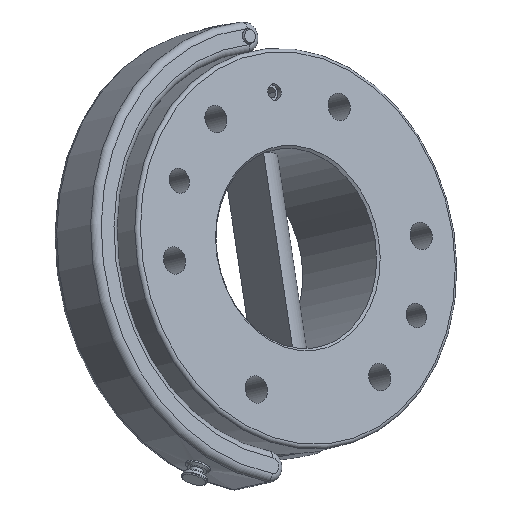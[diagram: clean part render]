
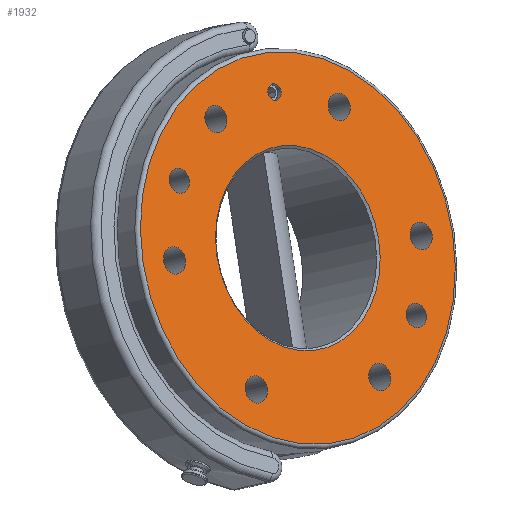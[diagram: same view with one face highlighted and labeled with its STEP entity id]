
A CAD part, top view. The second image highlights one B-rep face of the part: STEP entity #1932.
In plain terms, the highlighted planar face has unit normal (0.608, 0.139, 0.781).
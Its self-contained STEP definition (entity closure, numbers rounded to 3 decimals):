
#888=CARTESIAN_POINT('',(-110.112,-188.154,197.407));
#889=VERTEX_POINT('',#888);
#890=CARTESIAN_POINT('',(-112.704,-188.416,199.471));
#891=DIRECTION('',(-0.608,-0.139,-0.782));
#892=DIRECTION('',(0.78,0.079,-0.621));
#893=AXIS2_PLACEMENT_3D('',#890,#891,#892);
#894=CIRCLE('',#893,3.324);
#895=EDGE_CURVE('',#889,#889,#894,.T.);
#987=CARTESIAN_POINT('',(-52.739,-276.301,168.397));
#988=VERTEX_POINT('',#987);
#989=CARTESIAN_POINT('',(-56.639,-276.695,171.502));
#990=DIRECTION('',(-0.608,-0.139,-0.782));
#991=DIRECTION('',(0.78,0.079,-0.621));
#992=AXIS2_PLACEMENT_3D('',#989,#990,#991);
#993=CIRCLE('',#992,5.0);
#994=EDGE_CURVE('',#988,#988,#993,.T.);
#1015=CARTESIAN_POINT('',(-146.397,-223.141,231.857));
#1016=VERTEX_POINT('',#1015);
#1017=CARTESIAN_POINT('',(-150.297,-223.535,234.962));
#1018=DIRECTION('',(-0.608,-0.139,-0.782));
#1019=DIRECTION('',(0.78,0.079,-0.621));
#1020=AXIS2_PLACEMENT_3D('',#1017,#1018,#1019);
#1021=CIRCLE('',#1020,5.0);
#1022=EDGE_CURVE('',#1016,#1016,#1021,.T.);
#1309=CARTESIAN_POINT('',(-147.92,-254.611,238.627));
#1310=VERTEX_POINT('',#1309);
#1311=CARTESIAN_POINT('',(-152.209,-255.045,242.043));
#1312=DIRECTION('',(-0.608,-0.139,-0.782));
#1313=DIRECTION('',(-0.78,-0.079,0.621));
#1314=AXIS2_PLACEMENT_3D('',#1311,#1312,#1313);
#1315=CIRCLE('',#1314,5.5);
#1316=EDGE_CURVE('',#1310,#1310,#1315,.T.);
#1377=CARTESIAN_POINT('',(-132.988,-203.632,217.959));
#1378=VERTEX_POINT('',#1377);
#1379=CARTESIAN_POINT('',(-135.837,-199.147,219.38));
#1380=DIRECTION('',(-0.608,-0.139,-0.782));
#1381=DIRECTION('',(-0.518,0.815,0.258));
#1382=AXIS2_PLACEMENT_3D('',#1379,#1380,#1381);
#1383=CIRCLE('',#1382,5.5);
#1384=EDGE_CURVE('',#1378,#1378,#1383,.T.);
#1445=CARTESIAN_POINT('',(-88.537,-199.136,182.564));
#1446=VERTEX_POINT('',#1445);
#1447=CARTESIAN_POINT('',(-87.096,-194.217,180.569));
#1448=DIRECTION('',(-0.608,-0.139,-0.782));
#1449=DIRECTION('',(0.262,0.894,-0.363));
#1450=AXIS2_PLACEMENT_3D('',#1447,#1448,#1449);
#1451=CIRCLE('',#1450,5.5);
#1452=EDGE_CURVE('',#1446,#1446,#1451,.T.);
#1513=CARTESIAN_POINT('',(-59.016,-245.619,167.837));
#1514=VERTEX_POINT('',#1513);
#1515=CARTESIAN_POINT('',(-54.727,-245.185,164.422));
#1516=DIRECTION('',(-0.608,-0.139,-0.782));
#1517=DIRECTION('',(0.78,0.079,-0.621));
#1518=AXIS2_PLACEMENT_3D('',#1515,#1516,#1517);
#1519=CIRCLE('',#1518,5.5);
#1520=EDGE_CURVE('',#1514,#1514,#1519,.T.);
#1581=CARTESIAN_POINT('',(-73.947,-296.598,188.505));
#1582=VERTEX_POINT('',#1581);
#1583=CARTESIAN_POINT('',(-71.099,-301.083,187.085));
#1584=DIRECTION('',(-0.608,-0.139,-0.782));
#1585=DIRECTION('',(0.518,-0.815,-0.258));
#1586=AXIS2_PLACEMENT_3D('',#1583,#1584,#1585);
#1587=CIRCLE('',#1586,5.5);
#1588=EDGE_CURVE('',#1582,#1582,#1587,.T.);
#1649=CARTESIAN_POINT('',(-118.399,-301.094,223.901));
#1650=VERTEX_POINT('',#1649);
#1651=CARTESIAN_POINT('',(-119.84,-306.013,225.895));
#1652=DIRECTION('',(-0.608,-0.139,-0.782));
#1653=DIRECTION('',(-0.262,-0.894,0.363));
#1654=AXIS2_PLACEMENT_3D('',#1651,#1652,#1653);
#1655=CIRCLE('',#1654,5.5);
#1656=EDGE_CURVE('',#1650,#1650,#1655,.T.);
#1728=CARTESIAN_POINT('',(-71.494,-246.881,177.772));
#1729=VERTEX_POINT('',#1728);
#1730=CARTESIAN_POINT('',(-103.468,-250.115,203.232));
#1731=DIRECTION('',(0.608,0.139,0.782));
#1732=DIRECTION('',(-0.78,-0.079,0.621));
#1733=AXIS2_PLACEMENT_3D('',#1730,#1731,#1732);
#1734=CIRCLE('',#1733,41.0);
#1735=EDGE_CURVE('',#1729,#1729,#1734,.T.);
#1886=CARTESIAN_POINT('',(-103.468,-250.115,203.232));
#1887=DIRECTION('',(-0.608,-0.139,-0.782));
#1888=DIRECTION('',(-0.78,-0.079,0.621));
#1889=AXIS2_PLACEMENT_3D('',#1886,#1887,#1888);
#1890=PLANE('',#1889);
#1891=CARTESIAN_POINT('',(-42.327,-243.931,154.548));
#1892=VERTEX_POINT('',#1891);
#1893=CARTESIAN_POINT('',(-103.468,-250.115,203.232));
#1894=DIRECTION('',(-0.608,-0.139,-0.782));
#1895=DIRECTION('',(-0.78,-0.079,0.621));
#1896=AXIS2_PLACEMENT_3D('',#1893,#1894,#1895);
#1897=CIRCLE('',#1896,78.4);
#1898=EDGE_CURVE('',#1892,#1892,#1897,.T.);
#1899=ORIENTED_EDGE('',*,*,#1898,.F.);
#1900=EDGE_LOOP('',(#1899));
#1901=FACE_OUTER_BOUND('',#1900,.T.);
#1902=ORIENTED_EDGE('',*,*,#1735,.F.);
#1903=EDGE_LOOP('',(#1902));
#1904=FACE_BOUND('',#1903,.T.);
#1905=ORIENTED_EDGE('',*,*,#1656,.T.);
#1906=EDGE_LOOP('',(#1905));
#1907=FACE_BOUND('',#1906,.T.);
#1908=ORIENTED_EDGE('',*,*,#1588,.T.);
#1909=EDGE_LOOP('',(#1908));
#1910=FACE_BOUND('',#1909,.T.);
#1911=ORIENTED_EDGE('',*,*,#1520,.T.);
#1912=EDGE_LOOP('',(#1911));
#1913=FACE_BOUND('',#1912,.T.);
#1914=ORIENTED_EDGE('',*,*,#1452,.T.);
#1915=EDGE_LOOP('',(#1914));
#1916=FACE_BOUND('',#1915,.T.);
#1917=ORIENTED_EDGE('',*,*,#1384,.T.);
#1918=EDGE_LOOP('',(#1917));
#1919=FACE_BOUND('',#1918,.T.);
#1920=ORIENTED_EDGE('',*,*,#1316,.T.);
#1921=EDGE_LOOP('',(#1920));
#1922=FACE_BOUND('',#1921,.T.);
#1923=ORIENTED_EDGE('',*,*,#1022,.T.);
#1924=EDGE_LOOP('',(#1923));
#1925=FACE_BOUND('',#1924,.T.);
#1926=ORIENTED_EDGE('',*,*,#994,.T.);
#1927=EDGE_LOOP('',(#1926));
#1928=FACE_BOUND('',#1927,.T.);
#1929=ORIENTED_EDGE('',*,*,#895,.T.);
#1930=EDGE_LOOP('',(#1929));
#1931=FACE_BOUND('',#1930,.T.);
#1932=ADVANCED_FACE('',(#1901,#1904,#1907,#1910,#1913,#1916,#1919,#1922,#1925,#1928,#1931),#1890,.F.);
